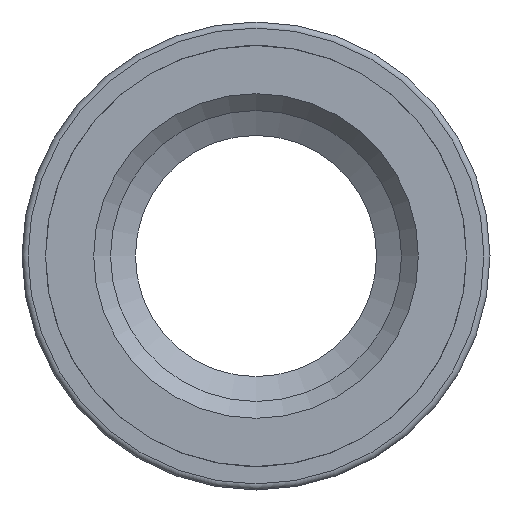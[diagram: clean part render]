
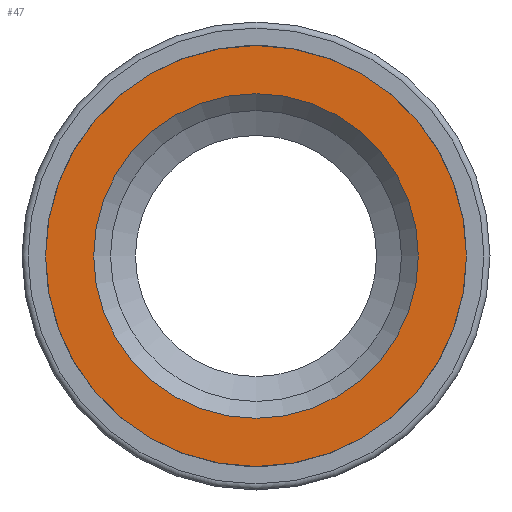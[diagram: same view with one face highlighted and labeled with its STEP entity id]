
A CAD part, front view. The second image highlights one B-rep face of the part: STEP entity #47.
In plain terms, the highlighted planar face has unit normal (0, -1, 0).
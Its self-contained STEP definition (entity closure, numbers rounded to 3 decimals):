
#47=ADVANCED_FACE('',(#146,#148),#150,.F.);
#146=FACE_BOUND('',#147,.T.);
#147=EDGE_LOOP('',(#870));
#148=FACE_BOUND('',#149,.T.);
#149=EDGE_LOOP('',(#871));
#150=PLANE('',#151);
#151=AXIS2_PLACEMENT_3D('',#152,#153,#154);
#152=CARTESIAN_POINT('',(0.,-24.5,0.));
#153=DIRECTION('',(0.,1.,0.));
#154=DIRECTION('',(-1.,0.,0.));
#870=ORIENTED_EDGE('',*,*,#1079,.T.);
#871=ORIENTED_EDGE('',*,*,#1080,.T.);
#1079=EDGE_CURVE('',#1190,#1190,#1191,.T.);
#1080=EDGE_CURVE('',#1192,#1192,#1193,.F.);
#1190=VERTEX_POINT('',#1399);
#1191=CIRCLE('',#1400,17.45);
#1192=VERTEX_POINT('',#1404);
#1193=CIRCLE('',#1405,13.459);
#1399=CARTESIAN_POINT('',(17.45,-24.5,0.));
#1400=AXIS2_PLACEMENT_3D('',#1401,#1402,#1403);
#1401=CARTESIAN_POINT('',(0.,-24.5,0.));
#1402=DIRECTION('',(0.,-1.,0.));
#1403=DIRECTION('',(1.,0.,0.));
#1404=CARTESIAN_POINT('',(13.459,-24.5,0.));
#1405=AXIS2_PLACEMENT_3D('',#1406,#1407,#1408);
#1406=CARTESIAN_POINT('',(0.,-24.5,0.));
#1407=DIRECTION('',(0.,-1.,0.));
#1408=DIRECTION('',(1.,0.,0.));
